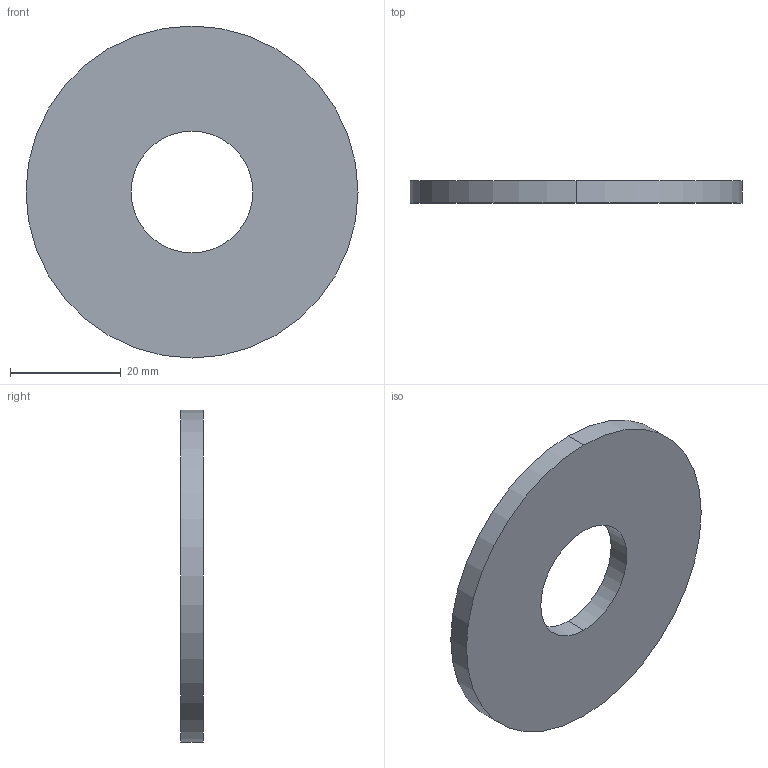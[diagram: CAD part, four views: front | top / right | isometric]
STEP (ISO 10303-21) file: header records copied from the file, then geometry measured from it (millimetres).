
FILE_DESCRIPTION (( 'STEP AP203' ), '1' );
FILE_NAME ('Wiberger-din9021_22.step', '2015-09-02T12:16:17', ( 'Magnus' ), ( 'Microsoft' ), 'SwSTEP 2.0', 'SolidWorks 2015', '' );
FILE_SCHEMA (( 'CONFIG_CONTROL_DESIGN' ));
Length unit declared in the file: millimetre
Products named in the file (1): Wiberger-din9021_22
Bounding box: 60 x 4 x 60 mm (x, y, z)
Volume: 9789.2 mm3; surface area: 5925 mm2
Topology: 1 solids, 1 shells, 6 faces, 12 edges, 8 vertices
Faces by surface type: cylinder 4, plane 2
Entity records: 245 total; most frequent: DIRECTION 34, CARTESIAN_POINT 27, ORIENTED_EDGE 24, AXIS2_PLACEMENT_3D 15, EDGE_CURVE 12, EDGE_LOOP 8, PERSON_AND_ORGANIZATION 8, CIRCLE 8
